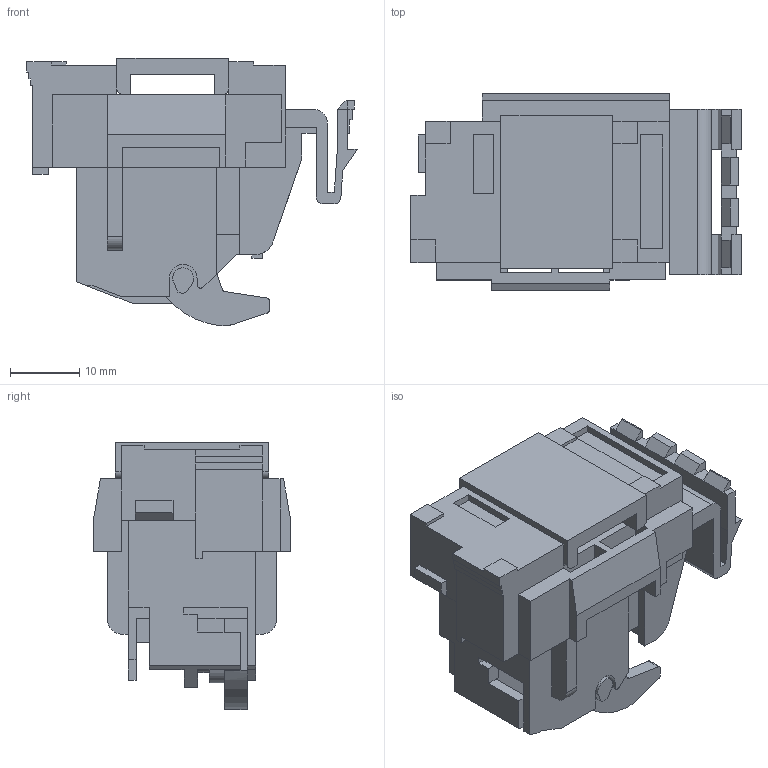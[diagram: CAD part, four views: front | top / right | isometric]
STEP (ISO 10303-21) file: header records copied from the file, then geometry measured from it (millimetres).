
FILE_DESCRIPTION(/* description */ (''),/* implementation_level */ '2;1');
FILE_NAME(/* name */ '2023.11.10.stp',/* time_stamp */ '2023-11-10T14:07:49+08:00',/* author */ (''),/* organization */ (''),/* preprocessor_version */ 'ST-DEVELOPER v16',/* originating_system */ 'SIEMENS PLM Software NX 10.0',/* authorisation */ '');
FILE_SCHEMA (('AUTOMOTIVE_DESIGN { 1 0 10303 214 3 1 1 1 }'));
Length unit declared in the file: millimetre
Products named in the file (1): midi08580DE3vsa8
Bounding box: 47.87 x 28.5 x 38.76 mm (x, y, z)
Volume: 16492.3 mm3; surface area: 10697.2 mm2
Topology: 1 solids, 1 shells, 301 faces, 894 edges, 579 vertices
Faces by surface type: plane 277, cylinder 24
Full cylindrical faces by diameter (mm): 3 x2
Entity records: 9903 total; most frequent: ORIENTED_EDGE 1780, CARTESIAN_POINT 1775, DIRECTION 1545, EDGE_CURVE 890, LINE 835, VECTOR 835, VERTEX_POINT 577, AXIS2_PLACEMENT_3D 355
